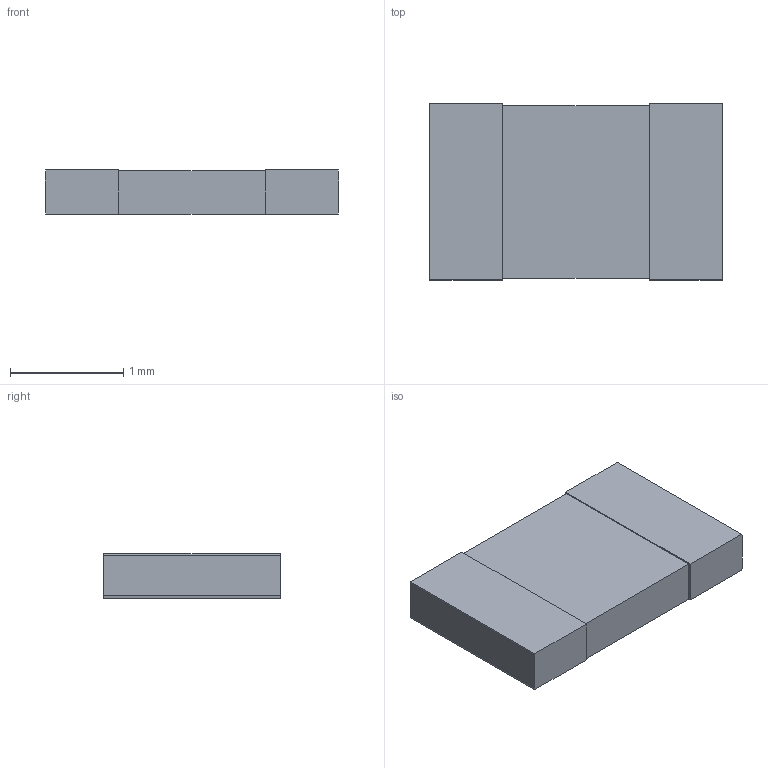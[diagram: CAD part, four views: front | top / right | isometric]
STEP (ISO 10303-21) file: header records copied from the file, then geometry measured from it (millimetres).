
FILE_DESCRIPTION(('FreeCAD Model'),'2;1');
FILE_NAME('Open CASCADE Shape Model','2021-06-29T03:03:23',('Author'),( ''),'Open CASCADE STEP processor 7.5','FreeCAD','Unknown');
FILE_SCHEMA(('AUTOMOTIVE_DESIGN { 1 0 10303 214 1 1 1 1 }'));
Length unit declared in the file: millimetre
Products named in the file (1): intersection
Bounding box: 2.59 x 1.55 x 0.39 mm (x, y, z)
Volume: 1.5 mm3; surface area: 11.2 mm2
Topology: 1 solids, 1 shells, 22 faces, 56 edges, 36 vertices
Faces by surface type: bspline 16, plane 6
Entity records: 1416 total; most frequent: CARTESIAN_POINT 425, B_SPLINE_CURVE_WITH_KNOTS 144, ORIENTED_EDGE 112, PCURVE 112, DEFINITIONAL_REPRESENTATION 112, EDGE_CURVE 56, SURFACE_CURVE 56, DIRECTION 38
